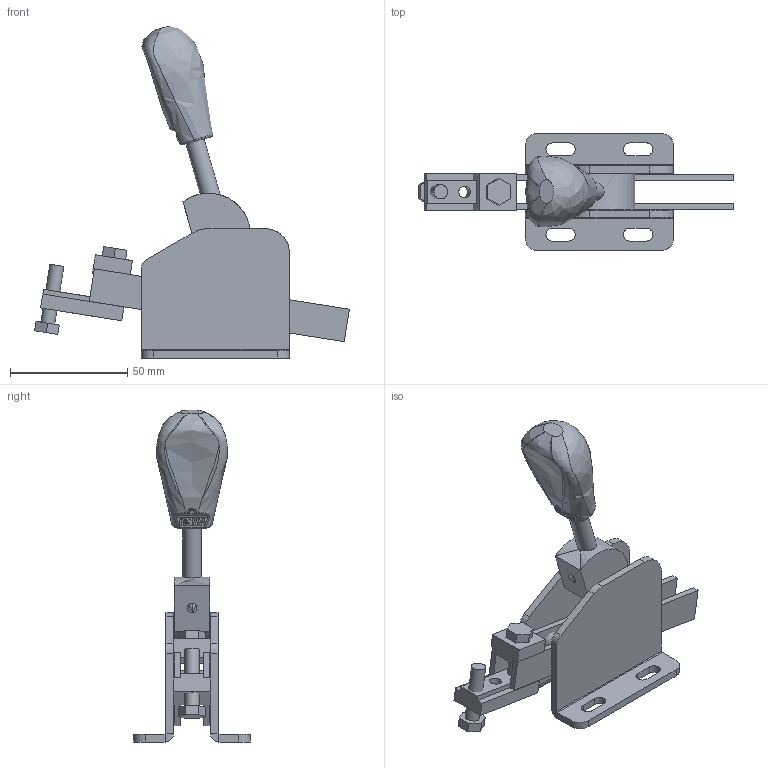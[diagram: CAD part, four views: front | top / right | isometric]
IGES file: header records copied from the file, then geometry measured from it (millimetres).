
Bounding box: 134.08 x 49.8 x 141.43 mm (x, y, z)
Volume: 69829.6 mm3; surface area: 40447.5 mm2
Topology: 12 solids, 12 shells, 253 faces, 651 edges, 426 vertices
Faces by surface type: bspline 253
